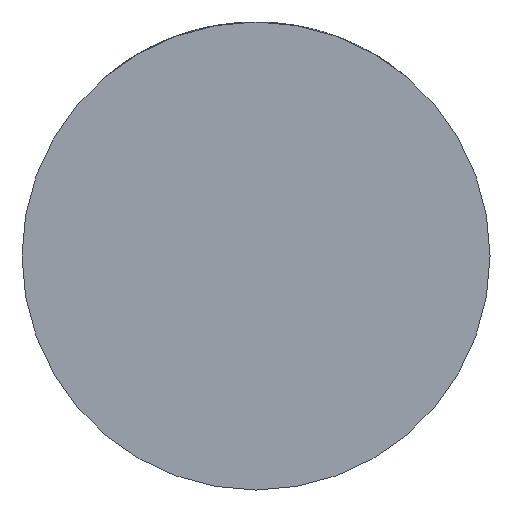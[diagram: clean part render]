
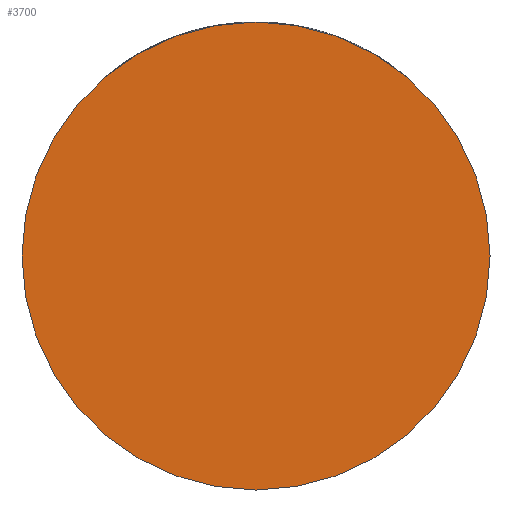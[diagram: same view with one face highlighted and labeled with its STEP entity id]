
A CAD part, front view. The second image highlights one B-rep face of the part: STEP entity #3700.
In plain terms, the highlighted planar face has unit normal (0, -1, 0).
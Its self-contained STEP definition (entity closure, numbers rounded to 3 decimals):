
#3 = AXIS2_PLACEMENT_3D ( 'NONE', #515, #1958, #4069 ) ;
#60 = CARTESIAN_POINT ( 'NONE',  ( -39., -36., 0. ) ) ;
#94 = DIRECTION ( 'NONE',  ( 1., 0., 0. ) ) ;
#109 = ORIENTED_EDGE ( 'NONE', *, *, #2510, .T. ) ;
#377 = AXIS2_PLACEMENT_3D ( 'NONE', #2715, #969, #626 ) ;
#515 = CARTESIAN_POINT ( 'NONE',  ( 0., -36., 0. ) ) ;
#626 = DIRECTION ( 'NONE',  ( 1., 0., 0. ) ) ;
#969 = DIRECTION ( 'NONE',  ( 0., -1., 0. ) ) ;
#1308 = PLANE ( 'NONE',  #377 ) ;
#1342 = CARTESIAN_POINT ( 'NONE',  ( 39., -36., 0. ) ) ;
#1898 = ORIENTED_EDGE ( 'NONE', *, *, #2999, .T. ) ;
#1958 = DIRECTION ( 'NONE',  ( 0., -1., 0. ) ) ;
#2013 = VERTEX_POINT ( 'NONE', #60 ) ;
#2510 = EDGE_CURVE ( 'NONE', #4337, #2013, #2577, .T. ) ;
#2571 = CARTESIAN_POINT ( 'NONE',  ( 0., -36., 0. ) ) ;
#2577 = CIRCLE ( 'NONE', #2710, 39. ) ;
#2710 = AXIS2_PLACEMENT_3D ( 'NONE', #2571, #3989, #94 ) ;
#2715 = CARTESIAN_POINT ( 'NONE',  ( 0., -36., 0. ) ) ;
#2999 = EDGE_CURVE ( 'NONE', #2013, #4337, #3148, .T. ) ;
#3015 = FACE_OUTER_BOUND ( 'NONE', #3595, .T. ) ;
#3148 = CIRCLE ( 'NONE', #3, 39. ) ;
#3595 = EDGE_LOOP ( 'NONE', ( #1898, #109 ) ) ;
#3700 = ADVANCED_FACE ( 'NONE', ( #3015 ), #1308, .T. ) ;
#3989 = DIRECTION ( 'NONE',  ( 0., -1., 0. ) ) ;
#4069 = DIRECTION ( 'NONE',  ( 1., 0., 0. ) ) ;
#4337 = VERTEX_POINT ( 'NONE', #1342 ) ;
